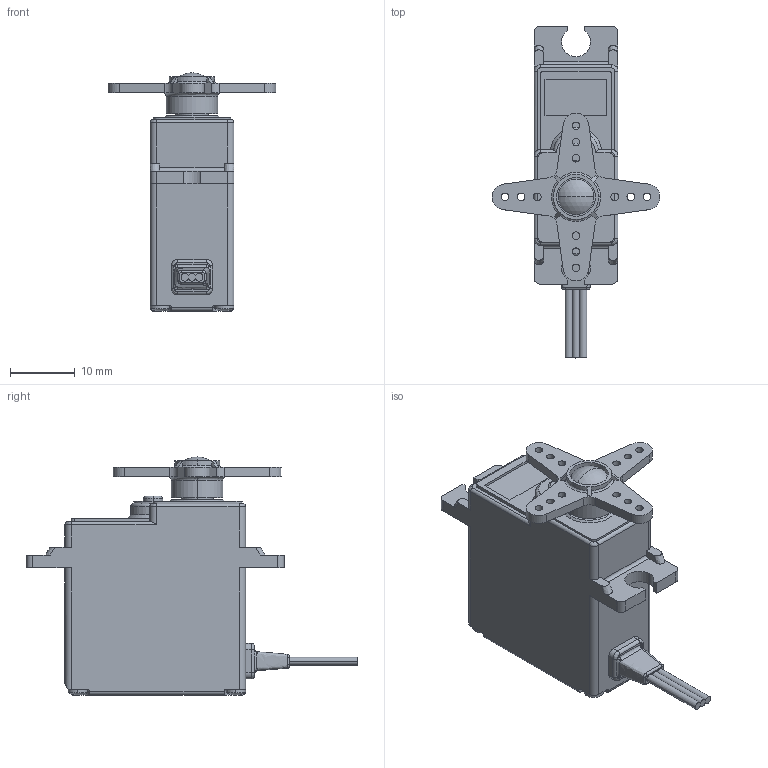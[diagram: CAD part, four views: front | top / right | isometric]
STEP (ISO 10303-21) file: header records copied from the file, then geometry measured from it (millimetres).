
FILE_DESCRIPTION (( 'STEP AP203' ), '1' );
FILE_NAME ('AD13-05H-A01(3D).STEP', '2024-11-20T08:28:11', ( '' ), ( '' ), 'SwSTEP 2.0', 'SolidWorks 2022', '' );
FILE_SCHEMA (( 'CONFIG_CONTROL_DESIGN' ));
Length unit declared in the file: millimetre
Products named in the file (4): Screw_M2.6x5; AD13-05H-A01; AD13-05H-A01(3D); ServoHorn-F
Assembly tree (3 placements, depth 2):
  AD13-05H-A01(3D)
    AD13-05H-A01
    ServoHorn-F
    Screw_M2.6x5
Bounding box: 25.99 x 51.4 x 36.9 mm (x, y, z)
Volume: 11362.6 mm3; surface area: 4628.2 mm2
Topology: 3 solids, 3 shells, 307 faces, 795 edges, 507 vertices
Faces by surface type: cylinder 137, plane 111, bspline 42, cone 7, sphere 6, torus 4
Entity records: 11834 total; most frequent: CARTESIAN_POINT 3977, ORIENTED_EDGE 1590, DIRECTION 1545, EDGE_CURVE 795, AXIS2_PLACEMENT_3D 576, VERTEX_POINT 507, VECTOR 393, LINE 393
